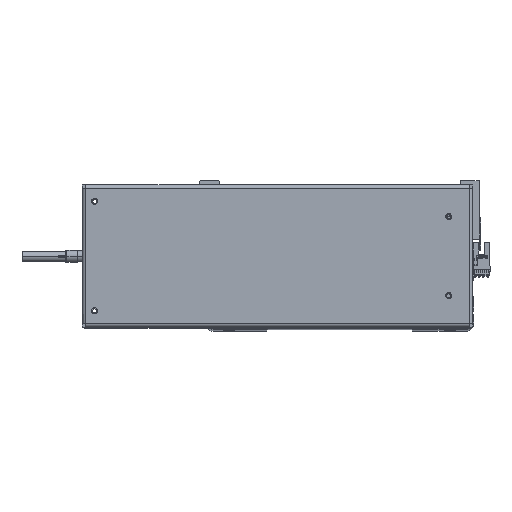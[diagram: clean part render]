
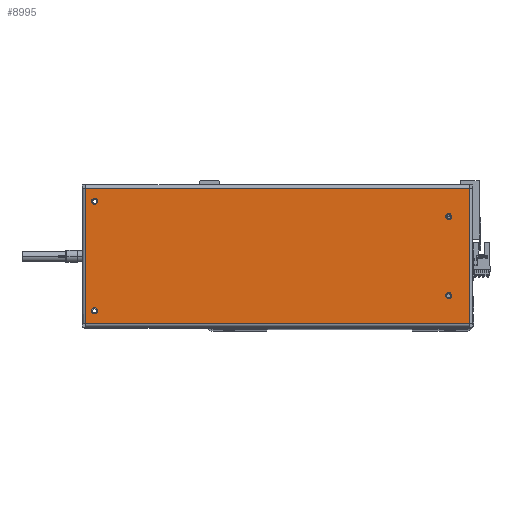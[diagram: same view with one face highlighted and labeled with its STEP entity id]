
A CAD part, top view. The second image highlights one B-rep face of the part: STEP entity #8995.
In plain terms, the highlighted planar face has unit normal (0, 0, 1).
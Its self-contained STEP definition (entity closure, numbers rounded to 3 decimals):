
#839 = AXIS2_PLACEMENT_3D ( 'NONE', #14589, #30171, #12091 ) ;
#1149 = CARTESIAN_POINT ( 'NONE',  ( -157.6, 55.6, 0. ) ) ;
#1396 = AXIS2_PLACEMENT_3D ( 'NONE', #38313, #35528, #11456 ) ;
#1776 = ORIENTED_EDGE ( 'NONE', *, *, #14662, .F. ) ;
#2350 = ORIENTED_EDGE ( 'NONE', *, *, #34842, .F. ) ;
#2441 = CARTESIAN_POINT ( 'NONE',  ( -138., 32.5, 0. ) ) ;
#2593 = ORIENTED_EDGE ( 'NONE', *, *, #3246, .T. ) ;
#2598 = EDGE_CURVE ( 'NONE', #30876, #26031, #3889, .T. ) ;
#2725 = AXIS2_PLACEMENT_3D ( 'NONE', #25079, #28082, #6990 ) ;
#2906 = VECTOR ( 'NONE', #7258, 1000. ) ;
#3246 = EDGE_CURVE ( 'NONE', #11088, #35889, #3852, .T. ) ;
#3463 = ORIENTED_EDGE ( 'NONE', *, *, #24355, .F. ) ;
#3852 = LINE ( 'NONE', #25355, #2906 ) ;
#3889 = CIRCLE ( 'NONE', #14969, 2.5 ) ;
#4274 = DIRECTION ( 'NONE',  ( 1., 0., 0. ) ) ;
#4407 = CARTESIAN_POINT ( 'NONE',  ( -140.5, -32.5, 0. ) ) ;
#4721 = DIRECTION ( 'NONE',  ( 0., 0., -1. ) ) ;
#4812 = VECTOR ( 'NONE', #34331, 1000. ) ;
#4928 = VERTEX_POINT ( 'NONE', #2441 ) ;
#4984 = EDGE_CURVE ( 'NONE', #36673, #35131, #10324, .T. ) ;
#5084 = FACE_BOUND ( 'NONE', #28001, .T. ) ;
#5352 = VERTEX_POINT ( 'NONE', #8639 ) ;
#5409 = CARTESIAN_POINT ( 'NONE',  ( 157.6, 55.6, 0. ) ) ;
#5877 = CARTESIAN_POINT ( 'NONE',  ( -143., -32.5, 0. ) ) ;
#6326 = AXIS2_PLACEMENT_3D ( 'NONE', #28724, #4721, #31740 ) ;
#6742 = FACE_BOUND ( 'NONE', #32099, .T. ) ;
#6990 = DIRECTION ( 'NONE',  ( 1., 0., 0. ) ) ;
#7258 = DIRECTION ( 'NONE',  ( 1., 0., 0. ) ) ;
#7429 = CIRCLE ( 'NONE', #34621, 2.5 ) ;
#7751 = VERTEX_POINT ( 'NONE', #36893 ) ;
#7765 = ORIENTED_EDGE ( 'NONE', *, *, #31560, .F. ) ;
#7960 = CARTESIAN_POINT ( 'NONE',  ( 157.6, -55.6, 0. ) ) ;
#8639 = CARTESIAN_POINT ( 'NONE',  ( 148., 45., 0. ) ) ;
#8788 = CARTESIAN_POINT ( 'NONE',  ( 150.5, 45., 0. ) ) ;
#8822 = CARTESIAN_POINT ( 'NONE',  ( -140.5, 32.5, 0. ) ) ;
#8995 = ADVANCED_FACE ( 'NONE', ( #6742, #26086, #35772, #5084, #26789 ), #17220, .F. ) ;
#9144 = CARTESIAN_POINT ( 'NONE',  ( -138., -32.5, 0. ) ) ;
#9694 = VERTEX_POINT ( 'NONE', #16250 ) ;
#10151 = DIRECTION ( 'NONE',  ( 0., 0., 1. ) ) ;
#10324 = CIRCLE ( 'NONE', #11524, 2.5 ) ;
#10952 = EDGE_LOOP ( 'NONE', ( #31734, #7765 ) ) ;
#11088 = VERTEX_POINT ( 'NONE', #23099 ) ;
#11310 = VECTOR ( 'NONE', #30617, 1000. ) ;
#11456 = DIRECTION ( 'NONE',  ( 1., 0., 0. ) ) ;
#11524 = AXIS2_PLACEMENT_3D ( 'NONE', #17735, #17882, #18146 ) ;
#11837 = EDGE_CURVE ( 'NONE', #5352, #29434, #14353, .T. ) ;
#11927 = DIRECTION ( 'NONE',  ( 0., 0., 1. ) ) ;
#12091 = DIRECTION ( 'NONE',  ( 1., 0., 0. ) ) ;
#13162 = CARTESIAN_POINT ( 'NONE',  ( 150.5, 45., 0. ) ) ;
#13265 = CARTESIAN_POINT ( 'NONE',  ( 148., -45., 0. ) ) ;
#13693 = DIRECTION ( 'NONE',  ( -1., 0., 0. ) ) ;
#14353 = CIRCLE ( 'NONE', #16749, 2.5 ) ;
#14589 = CARTESIAN_POINT ( 'NONE',  ( -140.5, 32.5, 0. ) ) ;
#14662 = EDGE_CURVE ( 'NONE', #29434, #5352, #32508, .T. ) ;
#14851 = ORIENTED_EDGE ( 'NONE', *, *, #35213, .T. ) ;
#14969 = AXIS2_PLACEMENT_3D ( 'NONE', #4407, #31060, #4274 ) ;
#15534 = AXIS2_PLACEMENT_3D ( 'NONE', #13162, #10151, #31743 ) ;
#16133 = CIRCLE ( 'NONE', #1396, 2.5 ) ;
#16250 = CARTESIAN_POINT ( 'NONE',  ( -157.6, 55.6, 0. ) ) ;
#16749 = AXIS2_PLACEMENT_3D ( 'NONE', #8788, #11927, #36397 ) ;
#17220 = PLANE ( 'NONE',  #6326 ) ;
#17735 = CARTESIAN_POINT ( 'NONE',  ( 150.5, -45., 0. ) ) ;
#17858 = EDGE_CURVE ( 'NONE', #35889, #26567, #33471, .T. ) ;
#17882 = DIRECTION ( 'NONE',  ( 0., 0., 1. ) ) ;
#18146 = DIRECTION ( 'NONE',  ( 1., 0., 0. ) ) ;
#18433 = EDGE_CURVE ( 'NONE', #4928, #7751, #25933, .T. ) ;
#19379 = EDGE_LOOP ( 'NONE', ( #3463, #22242 ) ) ;
#21028 = ORIENTED_EDGE ( 'NONE', *, *, #17858, .T. ) ;
#22242 = ORIENTED_EDGE ( 'NONE', *, *, #4984, .F. ) ;
#22458 = ORIENTED_EDGE ( 'NONE', *, *, #2598, .F. ) ;
#23099 = CARTESIAN_POINT ( 'NONE',  ( -157.6, -55.6, 0. ) ) ;
#23170 = ORIENTED_EDGE ( 'NONE', *, *, #11837, .F. ) ;
#24355 = EDGE_CURVE ( 'NONE', #35131, #36673, #33164, .T. ) ;
#25079 = CARTESIAN_POINT ( 'NONE',  ( 150.5, -45., 0. ) ) ;
#25355 = CARTESIAN_POINT ( 'NONE',  ( -157.7, -55.6, 0. ) ) ;
#25933 = CIRCLE ( 'NONE', #839, 2.5 ) ;
#26031 = VERTEX_POINT ( 'NONE', #5877 ) ;
#26086 = FACE_BOUND ( 'NONE', #10952, .T. ) ;
#26567 = VERTEX_POINT ( 'NONE', #5409 ) ;
#26789 = FACE_OUTER_BOUND ( 'NONE', #36494, .T. ) ;
#27545 = CARTESIAN_POINT ( 'NONE',  ( 153., -45., 0. ) ) ;
#28001 = EDGE_LOOP ( 'NONE', ( #1776, #23170 ) ) ;
#28082 = DIRECTION ( 'NONE',  ( 0., 0., 1. ) ) ;
#28724 = CARTESIAN_POINT ( 'NONE',  ( 157.7, 58.5, 0. ) ) ;
#29203 = LINE ( 'NONE', #31775, #36243 ) ;
#29434 = VERTEX_POINT ( 'NONE', #33836 ) ;
#30171 = DIRECTION ( 'NONE',  ( 0., 0., 1. ) ) ;
#30449 = EDGE_CURVE ( 'NONE', #26567, #9694, #29203, .T. ) ;
#30617 = DIRECTION ( 'NONE',  ( 0., 1., 0. ) ) ;
#30876 = VERTEX_POINT ( 'NONE', #9144 ) ;
#31060 = DIRECTION ( 'NONE',  ( 0., 0., 1. ) ) ;
#31560 = EDGE_CURVE ( 'NONE', #7751, #4928, #7429, .T. ) ;
#31734 = ORIENTED_EDGE ( 'NONE', *, *, #18433, .F. ) ;
#31740 = DIRECTION ( 'NONE',  ( -1., 0., 0. ) ) ;
#31743 = DIRECTION ( 'NONE',  ( 1., 0., 0. ) ) ;
#31775 = CARTESIAN_POINT ( 'NONE',  ( 157.7, 55.6, 0. ) ) ;
#32099 = EDGE_LOOP ( 'NONE', ( #22458, #2350 ) ) ;
#32508 = CIRCLE ( 'NONE', #15534, 2.5 ) ;
#33093 = LINE ( 'NONE', #1149, #4812 ) ;
#33164 = CIRCLE ( 'NONE', #2725, 2.5 ) ;
#33215 = CARTESIAN_POINT ( 'NONE',  ( 157.6, -55.6, 0. ) ) ;
#33471 = LINE ( 'NONE', #33215, #11310 ) ;
#33836 = CARTESIAN_POINT ( 'NONE',  ( 153., 45., 0. ) ) ;
#34331 = DIRECTION ( 'NONE',  ( 0., -1., 0. ) ) ;
#34621 = AXIS2_PLACEMENT_3D ( 'NONE', #8822, #35511, #36048 ) ;
#34842 = EDGE_CURVE ( 'NONE', #26031, #30876, #16133, .T. ) ;
#35131 = VERTEX_POINT ( 'NONE', #27545 ) ;
#35213 = EDGE_CURVE ( 'NONE', #9694, #11088, #33093, .T. ) ;
#35511 = DIRECTION ( 'NONE',  ( 0., 0., 1. ) ) ;
#35528 = DIRECTION ( 'NONE',  ( 0., 0., 1. ) ) ;
#35772 = FACE_BOUND ( 'NONE', #19379, .T. ) ;
#35889 = VERTEX_POINT ( 'NONE', #7960 ) ;
#36048 = DIRECTION ( 'NONE',  ( 1., 0., 0. ) ) ;
#36243 = VECTOR ( 'NONE', #13693, 1000. ) ;
#36397 = DIRECTION ( 'NONE',  ( 1., 0., 0. ) ) ;
#36494 = EDGE_LOOP ( 'NONE', ( #14851, #2593, #21028, #38352 ) ) ;
#36673 = VERTEX_POINT ( 'NONE', #13265 ) ;
#36893 = CARTESIAN_POINT ( 'NONE',  ( -143., 32.5, 0. ) ) ;
#38313 = CARTESIAN_POINT ( 'NONE',  ( -140.5, -32.5, 0. ) ) ;
#38352 = ORIENTED_EDGE ( 'NONE', *, *, #30449, .T. ) ;
